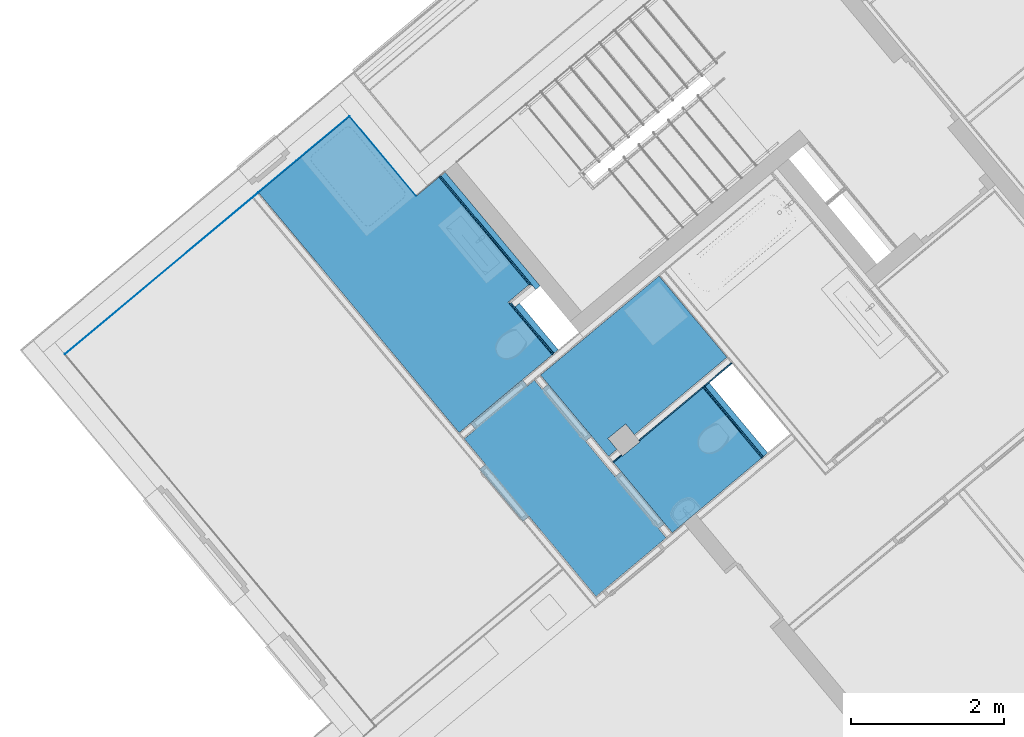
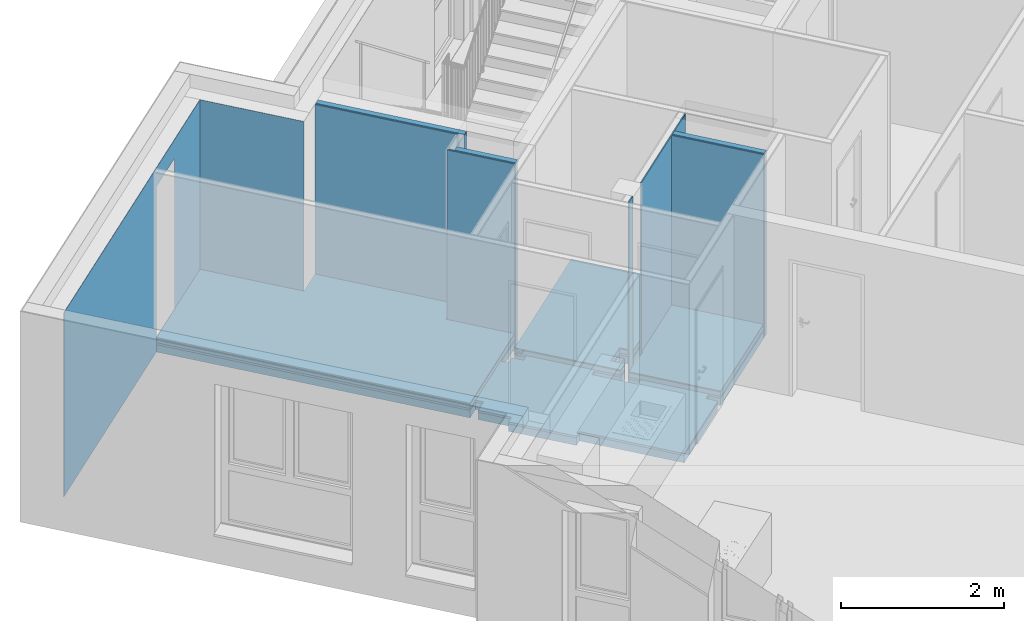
# One storey, part 26 of 53: 26 building element parts, 1 opening, 10 elements without a shape of their own.
"""IFC4 building model written with IfcOpenShell, lengths in metres."""

from ifc_helpers import new_model, entity, si_unit, converted_unit, derived_unit, direction, frame, origin_with_axes, place, context, subcontext, project, spatial, polygons, material, type_object, element, aggregate, save


model = new_model("IFC4")

# Units and contexts
model_context = context("Model", 3, precision=1e-05, world=origin_with_axes(), true_north=direction((0.0, 1.0)))
body_context = subcontext(model_context, "Body", "Model", "MODEL_VIEW")
ifc_project = project(units=[si_unit("LENGTHUNIT", "METRE"), si_unit("AREAUNIT", "SQUARE_METRE"), si_unit("VOLUMEUNIT", "CUBIC_METRE"), converted_unit("PLANEANGLEUNIT", "DEGREE", entity("IfcPlaneAngleMeasure", 0.0174532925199), si_unit("PLANEANGLEUNIT", "RADIAN"), dimensions=[0, 0, 0, 0, 0, 0, 0]), converted_unit("TIMEUNIT", "Year", entity("IfcTimeMeasure", 31556926.0), si_unit("TIMEUNIT", "SECOND"), dimensions=[0, 0, 1, 0, 0, 0, 0]), si_unit("MASSUNIT", "GRAM", prefix="KILO"), si_unit("THERMODYNAMICTEMPERATUREUNIT", "DEGREE_CELSIUS"), si_unit("LUMINOUSINTENSITYUNIT", "LUMEN"), si_unit("ENERGYUNIT", "JOULE", prefix="MEGA"), derived_unit("THERMALCONDUCTANCEUNIT", [(si_unit("POWERUNIT", "WATT"), 1), (si_unit("LENGTHUNIT", "METRE"), -1), (si_unit("THERMODYNAMICTEMPERATUREUNIT", "KELVIN"), -1)]), derived_unit("SPECIFICHEATCAPACITYUNIT", [(si_unit("ENERGYUNIT", "JOULE"), 1), (si_unit("MASSUNIT", "GRAM", prefix="KILO"), -1), (si_unit("THERMODYNAMICTEMPERATUREUNIT", "KELVIN"), -1)]), derived_unit("MASSDENSITYUNIT", [(si_unit("MASSUNIT", "GRAM", prefix="KILO"), 1), (si_unit("VOLUMEUNIT", "CUBIC_METRE"), -1)])], contexts=[model_context])

# Site, building, storey
site_placement = place(None, frame((-0.00153261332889, -0.00661245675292, 0.0), z_axis=(0.0, 0.0, 1.0), x_axis=(1.0, 0.0, 0.0)))
site = spatial("IfcSite", under=ifc_project, at=site_placement, Name="Gelände", CompositionType="ELEMENT")
building_placement = place(site_placement, origin_with_axes())
building = spatial("IfcBuilding", under=site, at=building_placement, Name="Gebäude", CompositionType="ELEMENT")
storey_placement = place(building_placement, frame((0.0, 0.0, 2.74), z_axis=(0.0, 0.0, 1.0), x_axis=(1.0, 0.0, 0.0)))
storey = spatial("IfcBuildingStorey", under=building, at=storey_placement, Name="OG1", CompositionType="ELEMENT", Elevation=2.74)

# Wall, building element parts
wall_type_1 = type_object("IfcWallType", Name="LB 10,5 cm doppelte Vorsatzschale Bad 105", PredefinedType="NOTDEFINED")
wall_1_placement = place(storey_placement, frame((-0.587223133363, 19.7162753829, 0.0), z_axis=(0.0, 0.0, 1.0), x_axis=(0.64120952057, -0.767365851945, 0.0)))
wall_1 = element("IfcWall", 1, at=wall_1_placement, inside=storey, type_object=wall_type_1, Name="Wand-004", PredefinedType="NOTDEFINED")
ifc_material_1 = material(Name="Mineralwolle weich")
building_element_part_1_placement = place(wall_1_placement, origin_with_axes())
building_element_part_1 = element("IfcBuildingElementPart", 2, at=building_element_part_1_placement, material=ifc_material_1, Name="Mineralwolle weich", PredefinedType="NOTDEFINED", context=body_context, shape_type="Tessellation", body=[
    polygons([(1.30487896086, 0.0, 2.76), (0.10500000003, 0.0, 2.76), (0.105000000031, -0.075, 2.76), (1.30487896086, -0.075, 2.76), (1.30487896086, 0.0, 0.0), (0.10500000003, 0.0, 0.0), (0.105000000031, -0.075, 0.0), (1.30487896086, -0.075, 0.0)], [[[1, 2, 3, 4]], [[5, 6, 2, 1]], [[3, 2, 6, 7]], [[4, 3, 7, 8]], [[4, 8, 5, 1]], [[8, 7, 6, 5]]], closed=True),
])
ifc_material_2 = material(Name="Gipskarton")
building_element_part_2_placement = place(wall_1_placement, origin_with_axes())
building_element_part_2 = element("IfcBuildingElementPart", 3, at=building_element_part_2_placement, material=ifc_material_2, Name="Gipskarton", PredefinedType="NOTDEFINED", context=body_context, shape_type="Tessellation", body=[
    polygons([(1.30487896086, -0.075, 2.76), (0.105000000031, -0.075, 2.76), (0.105000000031, -0.09, 2.76), (1.30487896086, -0.09, 2.76), (1.30487896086, -0.075, 0.0), (0.105000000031, -0.075, 0.0), (0.105000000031, -0.09, 0.0), (1.30487896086, -0.09, 0.0)], [[[1, 2, 3, 4]], [[5, 6, 2, 1]], [[3, 2, 6, 7]], [[4, 3, 7, 8]], [[4, 8, 5, 1]], [[8, 7, 6, 5]]], closed=True),
])
building_element_part_3_placement = place(wall_1_placement, origin_with_axes())
building_element_part_3 = element("IfcBuildingElementPart", 4, at=building_element_part_3_placement, material=ifc_material_2, Name="Gipskarton", PredefinedType="NOTDEFINED", context=body_context, shape_type="Tessellation", body=[
    polygons([(1.30487896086, -0.09, 2.76), (0.105000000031, -0.09, 2.76), (0.105000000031, -0.105, 2.76), (1.30487896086, -0.105, 2.76), (1.30487896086, -0.09, 0.0), (0.105000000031, -0.09, 0.0), (0.105000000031, -0.105, 0.0), (1.30487896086, -0.105, 0.0)], [[[1, 2, 3, 4]], [[5, 6, 2, 1]], [[3, 2, 6, 7]], [[4, 3, 7, 8]], [[4, 8, 5, 1]], [[8, 7, 6, 5]]], closed=True),
])
aggregate(wall_1, [building_element_part_1, building_element_part_2, building_element_part_3])

wall_2_placement = place(storey_placement, frame((-3.007781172, 20.6786353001, 0.0), z_axis=(0.0, 0.0, 1.0), x_axis=(0.641209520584, -0.767365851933, 0.0)))
wall_2 = element("IfcWall", 5, at=wall_2_placement, inside=storey, type_object=wall_type_1, Name="Wand-004", PredefinedType="NOTDEFINED")
building_element_part_4_placement = place(wall_2_placement, origin_with_axes())
building_element_part_4 = element("IfcBuildingElementPart", 6, at=building_element_part_4_placement, material=ifc_material_1, Name="Mineralwolle weich", PredefinedType="NOTDEFINED", context=body_context, shape_type="Tessellation", body=[
    polygons([(0.795549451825, 0.0, 2.76), (0.0, 0.0, 2.76), (0.0, -0.075, 2.76), (0.795584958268, -0.075, 2.76), (0.795549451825, 0.0, 0.0), (0.0, 0.0, 0.0), (0.0, -0.075, 0.0), (0.795584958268, -0.075, 0.0)], [[[1, 2, 3, 4]], [[5, 6, 2, 1]], [[3, 2, 6, 7]], [[4, 3, 7, 8]], [[4, 8, 5, 1]], [[8, 7, 6, 5]]], closed=True),
])
building_element_part_5_placement = place(wall_2_placement, origin_with_axes())
building_element_part_5 = element("IfcBuildingElementPart", 7, at=building_element_part_5_placement, material=ifc_material_2, Name="Gipskarton", PredefinedType="NOTDEFINED", context=body_context, shape_type="Tessellation", body=[
    polygons([(0.795584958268, -0.075, 2.76), (-0.0750000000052, -0.075, 2.76), (-0.0750000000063, -0.09, 2.76), (0.795592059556, -0.09, 2.76), (0.795584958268, -0.075, 0.0), (-0.0750000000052, -0.075, 0.0), (-0.0750000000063, -0.09, 0.0), (0.795592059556, -0.09, 0.0)], [[[1, 2, 3, 4]], [[5, 6, 2, 1]], [[3, 2, 6, 7]], [[4, 3, 7, 8]], [[4, 8, 5, 1]], [[8, 7, 6, 5]]], closed=True),
])
building_element_part_6_placement = place(wall_2_placement, origin_with_axes())
building_element_part_6 = element("IfcBuildingElementPart", 8, at=building_element_part_6_placement, material=ifc_material_2, Name="Gipskarton", PredefinedType="NOTDEFINED", context=body_context, shape_type="Tessellation", body=[
    polygons([(0.795592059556, -0.09, 2.76), (-0.0900000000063, -0.09, 2.76), (-0.0900000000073, -0.105, 2.76), (0.795599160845, -0.105, 2.76), (0.795592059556, -0.09, 0.0), (-0.0900000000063, -0.09, 0.0), (-0.0900000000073, -0.105, 0.0), (0.795599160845, -0.105, 0.0)], [[[1, 2, 3, 4]], [[5, 6, 2, 1]], [[3, 2, 6, 7]], [[4, 3, 7, 8]], [[4, 8, 5, 1]], [[8, 7, 6, 5]]], closed=True),
])
aggregate(wall_2, [building_element_part_4, building_element_part_5, building_element_part_6])

wall_3_placement = place(storey_placement, frame((-3.98207071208, 22.3991523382, 0.0), z_axis=(0.0, 0.0, 1.0), x_axis=(0.641209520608, -0.767365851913, 0.0)))
wall_3 = element("IfcWall", 9, at=wall_3_placement, inside=storey, type_object=wall_type_1, Name="Wand-004", PredefinedType="NOTDEFINED")
building_element_part_7_placement = place(wall_3_placement, origin_with_axes())
building_element_part_7 = element("IfcBuildingElementPart", 10, at=building_element_part_7_placement, material=ifc_material_1, Name="Mineralwolle weich", PredefinedType="NOTDEFINED", context=body_context, shape_type="Tessellation", body=[
    polygons([(1.94498975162, 0.0, 2.76), (0.0, 0.0, 2.76), (0.0, -0.075, 2.76), (1.94498975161, -0.075, 2.76), (1.94498975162, 0.0, 0.0), (0.0, 0.0, 0.0), (0.0, -0.075, 0.0), (1.94498975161, -0.075, 0.0)], [[[1, 2, 3, 4]], [[5, 6, 2, 1]], [[3, 2, 6, 7]], [[4, 3, 7, 8]], [[4, 8, 5, 1]], [[8, 7, 6, 5]]], closed=True),
])
building_element_part_8_placement = place(wall_3_placement, origin_with_axes())
building_element_part_8 = element("IfcBuildingElementPart", 11, at=building_element_part_8_placement, material=ifc_material_2, Name="Gipskarton", PredefinedType="NOTDEFINED", context=body_context, shape_type="Tessellation", body=[
    polygons([(1.86998975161, -0.075, 2.76), (0.0, -0.075, 2.76), (0.0, -0.09, 2.76), (1.86998975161, -0.09, 2.76), (1.86998975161, -0.075, 0.0), (0.0, -0.075, 0.0), (0.0, -0.09, 0.0), (1.86998975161, -0.09, 0.0)], [[[1, 2, 3, 4]], [[5, 6, 2, 1]], [[3, 2, 6, 7]], [[4, 3, 7, 8]], [[4, 8, 5, 1]], [[8, 7, 6, 5]]], closed=True),
])
building_element_part_9_placement = place(wall_3_placement, origin_with_axes())
building_element_part_9 = element("IfcBuildingElementPart", 12, at=building_element_part_9_placement, material=ifc_material_2, Name="Gipskarton", PredefinedType="NOTDEFINED", context=body_context, shape_type="Tessellation", body=[
    polygons([(1.85498975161, -0.09, 2.76), (0.0, -0.09, 2.76), (0.0, -0.105, 2.76), (1.85498975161, -0.105, 2.76), (1.85498975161, -0.09, 0.0), (0.0, -0.09, 0.0), (0.0, -0.105, 0.0), (1.85498975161, -0.105, 0.0)], [[[1, 2, 3, 4]], [[5, 6, 2, 1]], [[3, 2, 6, 7]], [[4, 3, 7, 8]], [[4, 8, 5, 1]], [[8, 7, 6, 5]]], closed=True),
])
aggregate(wall_3, [building_element_part_7, building_element_part_8, building_element_part_9])

# Wall, building element part
wall_type_2 = type_object("IfcWallType", Name="IW LB 01 Leichtbautrennwand einfach 10,5 cm 105", PredefinedType="NOTDEFINED")
wall_4_placement = place(storey_placement, frame((-0.283908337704, 19.9697246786, 0.0), z_axis=(0.0, 0.0, 1.0), x_axis=(-0.76736585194, -0.641209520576, 0.0)))
wall_4 = element("IfcWall", 13, at=wall_4_placement, inside=storey, type_object=wall_type_2, Name="Wand-012", PredefinedType="NOTDEFINED")
building_element_part_10_placement = place(wall_4_placement, origin_with_axes())
building_element_part_10 = element("IfcBuildingElementPart", 14, at=building_element_part_10_placement, material=ifc_material_2, Name="Gipskarton", PredefinedType="NOTDEFINED", context=body_context, shape_type="Tessellation", body=[
    polygons([(1.88476244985, 0.105, 0.0), (1.88476244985, 0.105, 2.76), (2.02595275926, 0.105, 2.76), (2.02595275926, 0.105, 0.0), (1.88453826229, 0.09, 2.76), (1.88453826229, 0.09, 0.0), (2.02595275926, 0.09, 2.76), (2.02595275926, 0.09, 0.0)], [[[1, 2, 3, 4]], [[5, 2, 1, 6]], [[2, 5, 7, 3]], [[8, 4, 3, 7]], [[6, 1, 4, 8]], [[5, 6, 8, 7]]], closed=True),
    polygons([(1.58450475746, 0.09, 2.76), (1.58472894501, 0.105, 2.76), (0.0, 0.105, 2.76), (0.0, 0.09, 2.76), (1.58472894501, 0.105, 0.0), (1.58450475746, 0.09, 0.0), (0.0, 0.105, 0.0), (0.0, 0.09, 0.0)], [[[1, 2, 3, 4]], [[5, 2, 1, 6]], [[2, 5, 7, 3]], [[3, 7, 8, 4]], [[6, 1, 4, 8]], [[5, 6, 8, 7]]], closed=True),
])
aggregate(wall_4, [building_element_part_10])

wall_type_3 = type_object("IfcWallType", Name="AW EG 420", PredefinedType="NOTDEFINED")
wall_5_placement = place(storey_placement, frame((-4.30928730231, 22.6730576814, -0.2), z_axis=(0.0, 0.0, 1.0), x_axis=(-0.641206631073, 0.767368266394, 0.0)))
wall_5 = element("IfcWall", 15, at=wall_5_placement, inside=storey, type_object=wall_type_3, Name="Wand-002", PredefinedType="NOTDEFINED")
ifc_material_3 = material(Name="Zementputz")
building_element_part_11_placement = place(wall_5_placement, origin_with_axes())
building_element_part_11 = element("IfcBuildingElementPart", 16, at=building_element_part_11_placement, material=ifc_material_3, Name="Zementputz", PredefinedType="NOTDEFINED", context=body_context, shape_type="Tessellation", body=[
    polygons([(0.946438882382, 0.415, 2.96), (-0.420001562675, 0.415, 2.96), (-0.420001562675, 0.415, 0.2), (0.946438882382, 0.415, 0.2), (-0.420001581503, 0.42, 2.96), (0.946438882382, 0.42, 2.96), (-0.420001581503, 0.42, 0.2), (0.946438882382, 0.42, 0.2)], [[[1, 2, 3, 4]], [[5, 2, 1, 6]], [[2, 5, 7, 3]], [[4, 3, 7, 8]], [[6, 1, 4, 8]], [[5, 6, 8, 7]]], closed=True),
])
aggregate(wall_5, [building_element_part_11])

# Covering, building element parts
covering_type = type_object("IfcCoveringType", Name="DE 01 Decke Wohnung/Wohnung Fließen 220", PredefinedType="NOTDEFINED")
covering_1_placement = place(storey_placement, frame((-2.72972930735, 19.7371746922, 0.22), z_axis=(0.0, 0.0, 1.0), x_axis=(1.0, 0.0, 0.0)))
covering_1 = element("IfcCovering", 17, at=covering_1_placement, inside=storey, type_object=covering_type, Name="Decke-003", PredefinedType="NOTDEFINED")
ifc_material_4 = material(Name="Fliesen")
building_element_part_12_placement = place(covering_1_placement, origin_with_axes())
building_element_part_12 = element("IfcBuildingElementPart", 18, at=building_element_part_12_placement, material=ifc_material_4, Name="Fliesen", PredefinedType="NOTDEFINED", context=body_context, shape_type="Tessellation", body=[
    polygons([(0.89117400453, -1.06651021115, -0.015), (0.89117400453, -1.06651021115, 0.0), (0.0, 0.0, 0.0), (0.0, 0.0, -0.015), (1.00072286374, -0.974971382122, -0.015), (1.00072286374, -0.974971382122, 0.0), (0.883663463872, -0.830548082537, 0.0), (1.11672221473, -0.641647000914, 0.0), (1.2309583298, -0.782587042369, 0.0), (2.44582096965, 0.232549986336, 0.0), (1.55442053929, 1.29933116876, 0.0), (1.55442053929, 1.29933116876, -0.015), (2.44582096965, 0.232549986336, -0.015), (1.2309583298, -0.782587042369, -0.015), (1.11672221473, -0.641647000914, -0.015), (0.883663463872, -0.830548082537, -0.015)], [[[1, 2, 3, 4]], [[5, 6, 2, 1]], [[3, 2, 6, 7, 8, 9, 10, 11]], [[4, 3, 11, 12]], [[4, 12, 13, 14, 15, 16, 5, 1]], [[16, 7, 6, 5]], [[15, 8, 7, 16]], [[14, 9, 8, 15]], [[13, 10, 9, 14]], [[12, 11, 10, 13]]], closed=True),
])
ifc_material_5 = material(Name="Estrich")
building_element_part_13_placement = place(covering_1_placement, origin_with_axes())
building_element_part_13 = element("IfcBuildingElementPart", 19, at=building_element_part_13_placement, material=ifc_material_5, Name="Estrich", PredefinedType="NOTDEFINED", context=body_context, shape_type="Tessellation", body=[
    polygons([(0.89117400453, -1.06651021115, -0.08), (0.89117400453, -1.06651021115, -0.015), (0.0, 0.0, -0.015), (0.0, 0.0, -0.08), (1.00072286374, -0.974971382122, -0.08), (1.00072286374, -0.974971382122, -0.015), (0.883663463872, -0.830548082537, -0.015), (1.11672221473, -0.641647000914, -0.015), (1.2309583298, -0.782587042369, -0.015), (2.44582096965, 0.232549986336, -0.015), (1.55442053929, 1.29933116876, -0.015), (1.55442053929, 1.29933116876, -0.08), (2.44582096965, 0.232549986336, -0.08), (1.2309583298, -0.782587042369, -0.08), (1.11672221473, -0.641647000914, -0.08), (0.883663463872, -0.830548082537, -0.08)], [[[1, 2, 3, 4]], [[5, 6, 2, 1]], [[3, 2, 6, 7, 8, 9, 10, 11]], [[4, 3, 11, 12]], [[4, 12, 13, 14, 15, 16, 5, 1]], [[16, 7, 6, 5]], [[15, 8, 7, 16]], [[14, 9, 8, 15]], [[13, 10, 9, 14]], [[12, 11, 10, 13]]], closed=True),
])
ifc_material_6 = material(Name="Trittschalldämmung")
building_element_part_14_placement = place(covering_1_placement, origin_with_axes())
building_element_part_14 = element("IfcBuildingElementPart", 20, at=building_element_part_14_placement, material=ifc_material_6, Name="Trittschalldämmung", PredefinedType="NOTDEFINED", context=body_context, shape_type="Tessellation", body=[
    polygons([(0.89117400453, -1.06651021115, -0.11), (0.89117400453, -1.06651021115, -0.08), (0.0, 0.0, -0.08), (0.0, 0.0, -0.11), (1.00072286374, -0.974971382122, -0.11), (1.00072286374, -0.974971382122, -0.08), (0.883663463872, -0.830548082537, -0.08), (1.11672221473, -0.641647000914, -0.08), (1.2309583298, -0.782587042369, -0.08), (2.44582096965, 0.232549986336, -0.08), (1.55442053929, 1.29933116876, -0.08), (1.55442053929, 1.29933116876, -0.11), (2.44582096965, 0.232549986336, -0.11), (1.2309583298, -0.782587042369, -0.11), (1.11672221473, -0.641647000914, -0.11), (0.883663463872, -0.830548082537, -0.11)], [[[1, 2, 3, 4]], [[5, 6, 2, 1]], [[3, 2, 6, 7, 8, 9, 10, 11]], [[4, 3, 11, 12]], [[4, 12, 13, 14, 15, 16, 5, 1]], [[16, 7, 6, 5]], [[15, 8, 7, 16]], [[14, 9, 8, 15]], [[13, 10, 9, 14]], [[12, 11, 10, 13]]], closed=True),
])
ifc_material_7 = material(Name="Schüttung")
building_element_part_15_placement = place(covering_1_placement, origin_with_axes())
building_element_part_15 = element("IfcBuildingElementPart", 21, at=building_element_part_15_placement, material=ifc_material_7, Name="Schüttung", PredefinedType="NOTDEFINED", context=body_context, shape_type="Tessellation", body=[
    polygons([(0.0, 0.0, -0.22), (0.89117400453, -1.06651021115, -0.22), (0.89117400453, -1.06651021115, -0.11), (0.0, 0.0, -0.11), (1.55442053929, 1.29933116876, -0.22), (2.44582096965, 0.232549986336, -0.22), (1.2309583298, -0.782587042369, -0.22), (1.11672221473, -0.641647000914, -0.22), (0.883663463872, -0.830548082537, -0.22), (1.00072286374, -0.974971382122, -0.22), (1.00072286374, -0.974971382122, -0.11), (0.883663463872, -0.830548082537, -0.11), (1.11672221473, -0.641647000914, -0.11), (1.2309583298, -0.782587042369, -0.11), (2.44582096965, 0.232549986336, -0.11), (1.55442053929, 1.29933116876, -0.11)], [[[1, 2, 3, 4]], [[1, 5, 6, 7, 8, 9, 10, 2]], [[2, 10, 11, 3]], [[4, 3, 11, 12, 13, 14, 15, 16]], [[5, 1, 4, 16]], [[6, 5, 16, 15]], [[7, 6, 15, 14]], [[8, 7, 14, 13]], [[9, 8, 13, 12]], [[10, 9, 12, 11]]], closed=True),
])
aggregate(covering_1, [building_element_part_12, building_element_part_13, building_element_part_14, building_element_part_15])

covering_2_placement = place(storey_placement, frame((-1.77122830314, 18.5900910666, 0.22), z_axis=(0.0, 0.0, 1.0), x_axis=(1.0, 0.0, 0.0)))
covering_2 = element("IfcCovering", 22, at=covering_2_placement, inside=storey, type_object=covering_type, Name="Decke-004", PredefinedType="NOTDEFINED")
building_element_part_16_placement = place(covering_2_placement, origin_with_axes())
building_element_part_16 = element("IfcBuildingElementPart", 23, at=building_element_part_16_placement, material=ifc_material_4, Name="Fliesen", PredefinedType="NOTDEFINED", context=body_context, shape_type="Tessellation", body=[
    polygons([(0.769373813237, -0.920746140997, -0.015), (0.769373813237, -0.920746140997, 0.0), (0.0, 0.0, 0.0), (0.0, 0.0, -0.015), (1.94013256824, 0.0575377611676, -0.015), (1.94013256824, 0.0575377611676, 0.0), (1.170758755, 0.978283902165, 0.0), (0.338580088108, 0.282916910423, 0.0), (0.34712229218, 0.272377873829, 0.0), (0.114063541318, 0.0834767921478, 0.0), (0.108344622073, 0.0905325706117, 0.0), (0.108344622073, 0.0905325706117, -0.015), (0.114063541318, 0.0834767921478, -0.015), (0.34712229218, 0.272377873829, -0.015), (0.338580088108, 0.282916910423, -0.015), (1.170758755, 0.978283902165, -0.015)], [[[1, 2, 3, 4]], [[5, 6, 2, 1]], [[3, 2, 6, 7, 8, 9, 10, 11]], [[4, 3, 11, 12]], [[4, 12, 13, 14, 15, 16, 5, 1]], [[16, 7, 6, 5]], [[15, 8, 7, 16]], [[14, 9, 8, 15]], [[13, 10, 9, 14]], [[12, 11, 10, 13]]], closed=True),
])
building_element_part_17_placement = place(covering_2_placement, origin_with_axes())
building_element_part_17 = element("IfcBuildingElementPart", 24, at=building_element_part_17_placement, material=ifc_material_5, Name="Estrich", PredefinedType="NOTDEFINED", context=body_context, shape_type="Tessellation", body=[
    polygons([(0.769373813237, -0.920746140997, -0.08), (0.769373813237, -0.920746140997, -0.015), (0.0, 0.0, -0.015), (0.0, 0.0, -0.08), (1.94013256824, 0.0575377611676, -0.08), (1.94013256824, 0.0575377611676, -0.015), (1.170758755, 0.978283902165, -0.015), (0.338580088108, 0.282916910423, -0.015), (0.34712229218, 0.272377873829, -0.015), (0.114063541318, 0.0834767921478, -0.015), (0.108344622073, 0.0905325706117, -0.015), (0.108344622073, 0.0905325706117, -0.08), (0.114063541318, 0.0834767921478, -0.08), (0.34712229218, 0.272377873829, -0.08), (0.338580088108, 0.282916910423, -0.08), (1.170758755, 0.978283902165, -0.08)], [[[1, 2, 3, 4]], [[5, 6, 2, 1]], [[3, 2, 6, 7, 8, 9, 10, 11]], [[4, 3, 11, 12]], [[4, 12, 13, 14, 15, 16, 5, 1]], [[16, 7, 6, 5]], [[15, 8, 7, 16]], [[14, 9, 8, 15]], [[13, 10, 9, 14]], [[12, 11, 10, 13]]], closed=True),
])
building_element_part_18_placement = place(covering_2_placement, origin_with_axes())
building_element_part_18 = element("IfcBuildingElementPart", 25, at=building_element_part_18_placement, material=ifc_material_6, Name="Trittschalldämmung", PredefinedType="NOTDEFINED", context=body_context, shape_type="Tessellation", body=[
    polygons([(0.769373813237, -0.920746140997, -0.11), (0.769373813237, -0.920746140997, -0.08), (0.0, 0.0, -0.08), (0.0, 0.0, -0.11), (1.94013256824, 0.0575377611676, -0.11), (1.94013256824, 0.0575377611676, -0.08), (1.170758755, 0.978283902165, -0.08), (0.338580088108, 0.282916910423, -0.08), (0.34712229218, 0.272377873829, -0.08), (0.114063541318, 0.0834767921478, -0.08), (0.108344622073, 0.0905325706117, -0.08), (0.108344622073, 0.0905325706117, -0.11), (0.114063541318, 0.0834767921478, -0.11), (0.34712229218, 0.272377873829, -0.11), (0.338580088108, 0.282916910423, -0.11), (1.170758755, 0.978283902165, -0.11)], [[[1, 2, 3, 4]], [[5, 6, 2, 1]], [[3, 2, 6, 7, 8, 9, 10, 11]], [[4, 3, 11, 12]], [[4, 12, 13, 14, 15, 16, 5, 1]], [[16, 7, 6, 5]], [[15, 8, 7, 16]], [[14, 9, 8, 15]], [[13, 10, 9, 14]], [[12, 11, 10, 13]]], closed=True),
])
building_element_part_19_placement = place(covering_2_placement, origin_with_axes())
building_element_part_19 = element("IfcBuildingElementPart", 26, at=building_element_part_19_placement, material=ifc_material_7, Name="Schüttung", PredefinedType="NOTDEFINED", context=body_context, shape_type="Tessellation", body=[
    polygons([(0.0, 0.0, -0.22), (0.769373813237, -0.920746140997, -0.22), (0.769373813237, -0.920746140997, -0.11), (0.0, 0.0, -0.11), (0.108344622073, 0.0905325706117, -0.22), (0.114063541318, 0.0834767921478, -0.22), (0.34712229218, 0.272377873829, -0.22), (0.338580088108, 0.282916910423, -0.22), (1.170758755, 0.978283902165, -0.22), (1.94013256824, 0.0575377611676, -0.22), (1.94013256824, 0.0575377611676, -0.11), (1.170758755, 0.978283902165, -0.11), (0.338580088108, 0.282916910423, -0.11), (0.34712229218, 0.272377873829, -0.11), (0.114063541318, 0.0834767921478, -0.11), (0.108344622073, 0.0905325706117, -0.11)], [[[1, 2, 3, 4]], [[1, 5, 6, 7, 8, 9, 10, 2]], [[2, 10, 11, 3]], [[4, 3, 11, 12, 13, 14, 15, 16]], [[5, 1, 4, 16]], [[6, 5, 16, 15]], [[7, 6, 15, 14]], [[8, 7, 14, 13]], [[9, 8, 13, 12]], [[10, 9, 12, 11]]], closed=True),
])
aggregate(covering_2, [building_element_part_16, building_element_part_17, building_element_part_18, building_element_part_19])

covering_3_placement = place(storey_placement, frame((-5.23525427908, 23.1261941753, 0.22), z_axis=(0.0, 0.0, 1.0), x_axis=(1.0, 0.0, 0.0)))
covering_3 = element("IfcCovering", 27, at=covering_3_placement, inside=storey, type_object=covering_type, Name="Decke-004", PredefinedType="NOTDEFINED")
building_element_part_20_placement = place(covering_3_placement, origin_with_axes())
building_element_part_20 = element("IfcBuildingElementPart", 28, at=building_element_part_20_placement, material=ifc_material_4, Name="Fliesen", PredefinedType="NOTDEFINED", context=body_context, shape_type="Tessellation", body=[
    polygons([(1.54507449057e-05, -1.29558203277e-05, -0.015), (1.54507449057e-05, -1.29558203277e-05, 0.0), (0.872981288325, -1.0447381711, 0.0), (0.872981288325, -1.0447381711, -0.015), (-1.19285210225, -0.996763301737, 0.0), (-1.19285210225, -0.996763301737, -0.015), (1.43789442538, -4.14510244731, 0.0), (2.65704545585, -3.12540148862, 0.0), (2.07957269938, -2.4343124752, 0.0), (2.35242908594, -2.20631411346, 0.0), (1.17261016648, -0.794368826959, 0.0), (1.17261016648, -0.794368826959, -0.015), (2.35242908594, -2.20631411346, -0.015), (2.07957269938, -2.4343124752, -0.015), (2.65704545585, -3.12540148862, -0.015), (1.43789442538, -4.14510244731, -0.015)], [[[1, 2, 3, 4]], [[5, 2, 1, 6]], [[2, 5, 7, 8, 9, 10, 11, 3]], [[12, 4, 3, 11]], [[6, 1, 4, 12, 13, 14, 15, 16]], [[5, 6, 16, 7]], [[16, 15, 8, 7]], [[15, 14, 9, 8]], [[14, 13, 10, 9]], [[13, 12, 11, 10]]], closed=True),
])
building_element_part_21_placement = place(covering_3_placement, origin_with_axes())
building_element_part_21 = element("IfcBuildingElementPart", 29, at=building_element_part_21_placement, material=ifc_material_5, Name="Estrich", PredefinedType="NOTDEFINED", context=body_context, shape_type="Tessellation", body=[
    polygons([(1.54507449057e-05, -1.29558203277e-05, -0.08), (1.54507449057e-05, -1.29558203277e-05, -0.015), (0.872981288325, -1.0447381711, -0.015), (0.872981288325, -1.0447381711, -0.08), (-1.19285210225, -0.996763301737, -0.015), (-1.19285210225, -0.996763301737, -0.08), (1.43789442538, -4.14510244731, -0.015), (2.65704545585, -3.12540148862, -0.015), (2.07957269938, -2.4343124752, -0.015), (2.35242908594, -2.20631411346, -0.015), (1.17261016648, -0.794368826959, -0.015), (1.17261016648, -0.794368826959, -0.08), (2.35242908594, -2.20631411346, -0.08), (2.07957269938, -2.4343124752, -0.08), (2.65704545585, -3.12540148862, -0.08), (1.43789442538, -4.14510244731, -0.08)], [[[1, 2, 3, 4]], [[5, 2, 1, 6]], [[2, 5, 7, 8, 9, 10, 11, 3]], [[12, 4, 3, 11]], [[6, 1, 4, 12, 13, 14, 15, 16]], [[5, 6, 16, 7]], [[16, 15, 8, 7]], [[15, 14, 9, 8]], [[14, 13, 10, 9]], [[13, 12, 11, 10]]], closed=True),
])
building_element_part_22_placement = place(covering_3_placement, origin_with_axes())
building_element_part_22 = element("IfcBuildingElementPart", 30, at=building_element_part_22_placement, material=ifc_material_6, Name="Trittschalldämmung", PredefinedType="NOTDEFINED", context=body_context, shape_type="Tessellation", body=[
    polygons([(1.54507449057e-05, -1.29558203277e-05, -0.11), (1.54507449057e-05, -1.29558203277e-05, -0.08), (0.872981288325, -1.0447381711, -0.08), (0.872981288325, -1.0447381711, -0.11), (-1.19285210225, -0.996763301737, -0.08), (-1.19285210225, -0.996763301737, -0.11), (1.43789442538, -4.14510244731, -0.08), (2.65704545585, -3.12540148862, -0.08), (2.07957269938, -2.4343124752, -0.08), (2.35242908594, -2.20631411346, -0.08), (1.17261016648, -0.794368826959, -0.08), (1.17261016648, -0.794368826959, -0.11), (2.35242908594, -2.20631411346, -0.11), (2.07957269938, -2.4343124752, -0.11), (2.65704545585, -3.12540148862, -0.11), (1.43789442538, -4.14510244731, -0.11)], [[[1, 2, 3, 4]], [[5, 2, 1, 6]], [[2, 5, 7, 8, 9, 10, 11, 3]], [[12, 4, 3, 11]], [[6, 1, 4, 12, 13, 14, 15, 16]], [[5, 6, 16, 7]], [[16, 15, 8, 7]], [[15, 14, 9, 8]], [[14, 13, 10, 9]], [[13, 12, 11, 10]]], closed=True),
])
building_element_part_23_placement = place(covering_3_placement, origin_with_axes())
building_element_part_23 = element("IfcBuildingElementPart", 31, at=building_element_part_23_placement, material=ifc_material_7, Name="Schüttung", PredefinedType="NOTDEFINED", context=body_context, shape_type="Tessellation", body=[
    polygons([(1.54507449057e-05, -1.29558203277e-05, -0.22), (1.54507449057e-05, -1.29558203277e-05, -0.11), (0.872981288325, -1.0447381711, -0.11), (0.872981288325, -1.0447381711, -0.22), (-1.19285210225, -0.996763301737, -0.11), (-1.19285210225, -0.996763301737, -0.22), (1.43789442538, -4.14510244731, -0.11), (2.65704545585, -3.12540148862, -0.11), (2.07957269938, -2.4343124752, -0.11), (2.35242908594, -2.20631411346, -0.11), (1.17261016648, -0.794368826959, -0.11), (1.17261016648, -0.794368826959, -0.22), (2.35242908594, -2.20631411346, -0.22), (2.07957269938, -2.4343124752, -0.22), (2.65704545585, -3.12540148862, -0.22), (1.43789442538, -4.14510244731, -0.22)], [[[1, 2, 3, 4]], [[5, 2, 1, 6]], [[2, 5, 7, 8, 9, 10, 11, 3]], [[11, 12, 4, 3]], [[6, 1, 4, 12, 13, 14, 15, 16]], [[5, 6, 16, 7]], [[7, 16, 15, 8]], [[8, 15, 14, 9]], [[9, 14, 13, 10]], [[10, 13, 12, 11]]], closed=True),
])
aggregate(covering_3, [building_element_part_20, building_element_part_21, building_element_part_22, building_element_part_23])

# Space
space_1_placement = place(storey_placement, frame((-3.73003284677, 18.9005183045, 0.0), z_axis=(0.0, 0.0, 1.0), x_axis=(0.641209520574, -0.767365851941, 0.0)))
space_1 = spatial("IfcSpace", under=storey, at=space_1_placement, CompositionType="ELEMENT", PredefinedType="NOTDEFINED")

# Covering, building element parts
covering_4_placement = place(space_1_placement, frame((-0.000120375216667, 0.192623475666, 0.22), z_axis=(0.0, 0.0, 1.0), x_axis=(0.641209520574, 0.767365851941, 0.0)))
covering_4 = element("IfcCovering", 32, at=covering_4_placement, inside=space_1, type_object=covering_type, Name="Decke-003", PredefinedType="NOTDEFINED")
building_element_part_24_placement = place(covering_4_placement, origin_with_axes())
building_element_part_24 = element("IfcBuildingElementPart", 33, at=building_element_part_24_placement, material=ifc_material_6, Name="Trittschalldämmung", PredefinedType="NOTDEFINED", context=body_context, shape_type="Tessellation", body=[
    polygons([(0.772026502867, 0.645686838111, -0.11), (0.772026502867, 0.645686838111, -0.08), (0.871992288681, 0.526053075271, -0.08), (0.871992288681, 0.526053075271, -0.11), (0.682704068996, 0.570977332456, -0.08), (0.682704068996, 0.570977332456, -0.11), (0.6825988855, 0.57110308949, -0.08), (0.615338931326, 0.651518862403, -0.08), (-0.0673464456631, 0.0805191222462, -0.08), (-1.94673654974e-08, -1.62825521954e-08, -0.08), (1.87046381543e-05, -2.24027601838e-05, -0.08), (-0.147735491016, -0.123604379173, -0.08), (0.13108354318, -0.457280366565, -0.08), (0.0505101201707, -0.524607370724, -0.08), (0.621186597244, -1.20756298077, -0.08), (0.701760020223, -1.14023597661, -0.08), (1.57974343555, -2.1909603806, -0.08), (2.49986944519, -1.42210479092, -0.08), (2.40026170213, -1.30289938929, -0.08), (2.48083508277, -1.23557242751, -0.08), (1.91015864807, -0.552616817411, -0.08), (1.82958522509, -0.61994382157, -0.08), (1.44266872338, -0.156902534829, -0.08), (1.52324214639, -0.0895755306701, -0.08), (0.952565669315, 0.59338007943, -0.08), (0.952565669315, 0.59338007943, -0.11), (1.52324214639, -0.0895755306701, -0.11), (1.44266872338, -0.156902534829, -0.11), (1.82958522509, -0.61994382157, -0.11), (1.91015864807, -0.552616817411, -0.11), (2.48083508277, -1.23557242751, -0.11), (2.40026170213, -1.30289938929, -0.11), (2.49986944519, -1.42210479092, -0.11), (1.57974343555, -2.1909603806, -0.11), (0.701760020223, -1.14023597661, -0.11), (0.621186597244, -1.20756298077, -0.11), (0.0505101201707, -0.524607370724, -0.11), (0.13108354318, -0.457280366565, -0.11), (-0.147735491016, -0.123604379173, -0.11), (1.87046381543e-05, -2.24027601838e-05, -0.11), (-1.94673654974e-08, -1.62825521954e-08, -0.11), (-0.0673464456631, 0.0805191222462, -0.11), (0.615338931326, 0.651518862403, -0.11), (0.6825988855, 0.57110308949, -0.11)], [[[1, 2, 3, 4]], [[5, 2, 1, 6]], [[5, 7, 8, 9, 10, 11, 12, 13, 14, 15, 16, 17, 18, 19, 20, 21, 22, 23, 24, 25, 3, 2]], [[26, 4, 3, 25]], [[6, 1, 4, 26, 27, 28, 29, 30, 31, 32, 33, 34, 35, 36, 37, 38, 39, 40, 41, 42, 43, 44]], [[7, 5, 6, 44]], [[7, 44, 43, 8]], [[43, 42, 9, 8]], [[41, 10, 9, 42]], [[11, 10, 41, 40]], [[12, 11, 40, 39]], [[12, 39, 38, 13]], [[38, 37, 14, 13]], [[37, 36, 15, 14]], [[36, 35, 16, 15]], [[35, 34, 17, 16]], [[34, 33, 18, 17]], [[33, 32, 19, 18]], [[32, 31, 20, 19]], [[31, 30, 21, 20]], [[30, 29, 22, 21]], [[29, 28, 23, 22]], [[28, 27, 24, 23]], [[27, 26, 25, 24]]], closed=True),
])
building_element_part_25_placement = place(covering_4_placement, origin_with_axes())
building_element_part_25 = element("IfcBuildingElementPart", 34, at=building_element_part_25_placement, material=ifc_material_7, Name="Schüttung", PredefinedType="NOTDEFINED", context=body_context, shape_type="Tessellation", body=[
    polygons([(0.772026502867, 0.645686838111, -0.22), (0.772026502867, 0.645686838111, -0.11), (0.871992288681, 0.526053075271, -0.11), (0.871992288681, 0.526053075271, -0.22), (0.682704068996, 0.570977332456, -0.11), (0.682704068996, 0.570977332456, -0.22), (0.6825988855, 0.57110308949, -0.11), (0.615338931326, 0.651518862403, -0.11), (-0.0673464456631, 0.0805191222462, -0.11), (-1.94673654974e-08, -1.62825521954e-08, -0.11), (1.87046381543e-05, -2.24027601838e-05, -0.11), (-0.147735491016, -0.123604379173, -0.11), (0.13108354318, -0.457280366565, -0.11), (0.0505101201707, -0.524607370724, -0.11), (0.621186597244, -1.20756298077, -0.11), (0.701760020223, -1.14023597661, -0.11), (1.57974343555, -2.1909603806, -0.11), (2.49986944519, -1.42210479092, -0.11), (2.40026170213, -1.30289938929, -0.11), (2.48083508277, -1.23557242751, -0.11), (1.91015864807, -0.552616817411, -0.11), (1.82958522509, -0.61994382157, -0.11), (1.44266872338, -0.156902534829, -0.11), (1.52324214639, -0.0895755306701, -0.11), (0.952565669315, 0.59338007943, -0.11), (0.952565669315, 0.59338007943, -0.22), (1.52324214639, -0.0895755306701, -0.22), (1.44266872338, -0.156902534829, -0.22), (1.82958522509, -0.61994382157, -0.22), (1.91015864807, -0.552616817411, -0.22), (2.48083508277, -1.23557242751, -0.22), (2.40026170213, -1.30289938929, -0.22), (2.49986944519, -1.42210479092, -0.22), (1.57974343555, -2.1909603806, -0.22), (0.701760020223, -1.14023597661, -0.22), (0.621186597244, -1.20756298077, -0.22), (0.0505101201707, -0.524607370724, -0.22), (0.13108354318, -0.457280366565, -0.22), (-0.147735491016, -0.123604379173, -0.22), (1.87046381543e-05, -2.24027601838e-05, -0.22), (-1.94673659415e-08, -1.62825521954e-08, -0.22), (-0.0673464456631, 0.0805191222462, -0.22), (0.615338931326, 0.651518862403, -0.22), (0.682598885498, 0.571103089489, -0.22)], [[[1, 2, 3, 4]], [[5, 2, 1, 6]], [[5, 7, 8, 9, 10, 11, 12, 13, 14, 15, 16, 17, 18, 19, 20, 21, 22, 23, 24, 25, 3, 2]], [[25, 26, 4, 3]], [[6, 1, 4, 26, 27, 28, 29, 30, 31, 32, 33, 34, 35, 36, 37, 38, 39, 40, 41, 42, 43, 44]], [[7, 5, 6, 44]], [[7, 44, 43, 8]], [[8, 43, 42, 9]], [[41, 10, 9, 42]], [[11, 10, 41, 40]], [[12, 11, 40, 39]], [[12, 39, 38, 13]], [[13, 38, 37, 14]], [[14, 37, 36, 15]], [[15, 36, 35, 16]], [[16, 35, 34, 17]], [[17, 34, 33, 18]], [[18, 33, 32, 19]], [[19, 32, 31, 20]], [[20, 31, 30, 21]], [[21, 30, 29, 22]], [[22, 29, 28, 23]], [[23, 28, 27, 24]], [[24, 27, 26, 25]]], closed=True),
])
aggregate(covering_4, [building_element_part_24, building_element_part_25])

# Space
space_2_placement = place(storey_placement, frame((-6.42811534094, 22.1294415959, 0.22), z_axis=(0.0, 0.0, 1.0), x_axis=(0.64120952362, -0.767365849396, 0.0)))
space_2 = spatial("IfcSpace", under=storey, at=space_2_placement, CompositionType="ELEMENT", PredefinedType="NOTDEFINED")

# Wall, opening, building element part
wall_6_placement = place(space_2_placement, frame((-0.204978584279, 1.97449241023, -0.42), z_axis=(0.0, 0.0, 1.0), x_axis=(-3.7694446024e-06, -0.999999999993, 0.0)))
wall_6 = element("IfcWall", 35, at=wall_6_placement, inside=space_2, type_object=wall_type_3, Name="Wand-003", PredefinedType="NOTDEFINED")
opening_placement = place(wall_6_placement, frame((1.64949240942, 0.0, 0.42), z_axis=(0.0, 0.0, 1.0), x_axis=(1.0, 0.0, 0.0)))
element("IfcOpeningElement", 36, at=opening_placement, cuts=wall_6, Name="Fenster-001", context=body_context, identifier="Reference", shape_type="Tessellation", body=[
    polygons([(0.325, 0.0, 0.0), (0.325, 0.0, 2.26), (0.325, -3.02051221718, 2.26), (0.325, -3.02051221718, 0.0), (0.325, 3.01051221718, 0.0), (0.325, 3.01051221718, 2.26), (-0.325, 0.0, 2.26), (-0.325, -3.02051221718, 2.26), (-0.325, 3.01051221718, 2.26), (-0.325, -3.02051221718, 0.0), (-0.325, 0.0, 0.0), (-0.325, 3.01051221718, 0.0)], [[[1, 2, 3, 4]], [[2, 1, 5, 6]], [[7, 8, 3, 2, 6, 9]], [[8, 10, 4, 3]], [[1, 4, 10, 11, 12, 5]], [[6, 5, 12, 9]], [[7, 11, 10, 8]], [[11, 7, 9, 12]]], closed=True),
])
building_element_part_26_placement = place(wall_6_placement, origin_with_axes())
building_element_part_26 = element("IfcBuildingElementPart", 37, at=building_element_part_26_placement, material=ifc_material_3, Name="Zementputz", PredefinedType="NOTDEFINED", context=body_context, shape_type="Tessellation", body=[
    polygons([(0.42, 0.2, 2.96), (0.42, 0.2, 0.2), (5.27974515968, 0.2, 0.2), (5.27974515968, 0.2, 2.96), (1.97449240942, 0.2, 0.42), (1.32449240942, 0.2, 0.42), (1.32449240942, 0.2, 2.68), (1.97449240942, 0.2, 2.68), (0.42, 0.205, 2.96), (0.42, 0.205, 0.2), (5.27974514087, 0.205, 0.2), (5.27974514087, 0.205, 2.96), (1.97449240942, 0.205, 0.42), (1.32449240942, 0.205, 0.42), (1.32449240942, 0.205, 2.68), (1.97449240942, 0.205, 2.68)], [[[1, 2, 3, 4], [5, 6, 7, 8]], [[9, 10, 2, 1]], [[10, 11, 3, 2]], [[4, 3, 11, 12]], [[9, 1, 4, 12]], [[13, 14, 6, 5]], [[14, 15, 7, 6]], [[15, 16, 8, 7]], [[16, 13, 5, 8]], [[12, 11, 10, 9], [13, 16, 15, 14]]], closed=True),
])
aggregate(wall_6, [building_element_part_26])

save(model, "model.ifc")
